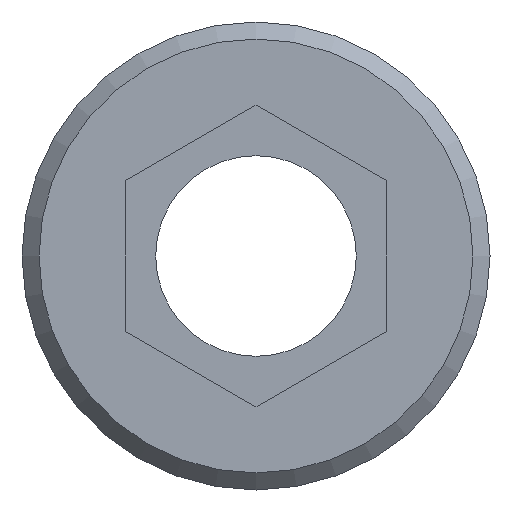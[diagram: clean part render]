
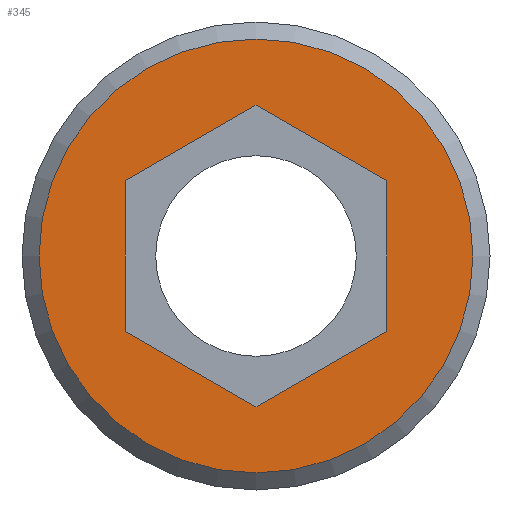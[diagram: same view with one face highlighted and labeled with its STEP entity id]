
A CAD part, front view. The second image highlights one B-rep face of the part: STEP entity #345.
In plain terms, the highlighted planar face has unit normal (0, -1, 0).
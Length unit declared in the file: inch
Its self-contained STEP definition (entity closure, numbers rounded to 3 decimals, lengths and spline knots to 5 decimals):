
#19=FACE_BOUND('',#87,.T.);
#39=CIRCLE('',#390,0.48);
#65=FACE_OUTER_BOUND('',#86,.T.);
#86=EDGE_LOOP('',(#285));
#87=EDGE_LOOP('',(#286,#287,#288,#289,#290,#291));
#97=LINE('',#528,#121);
#100=LINE('',#534,#124);
#103=LINE('',#540,#127);
#106=LINE('',#546,#130);
#109=LINE('',#552,#133);
#112=LINE('',#556,#136);
#121=VECTOR('',#414,0.3937);
#124=VECTOR('',#419,0.3937);
#127=VECTOR('',#424,0.3937);
#130=VECTOR('',#429,0.3937);
#133=VECTOR('',#434,0.3937);
#136=VECTOR('',#439,0.3937);
#145=VERTEX_POINT('',#525);
#146=VERTEX_POINT('',#527);
#148=VERTEX_POINT('',#533);
#150=VERTEX_POINT('',#539);
#152=VERTEX_POINT('',#545);
#154=VERTEX_POINT('',#551);
#166=VERTEX_POINT('',#588);
#179=EDGE_CURVE('',#146,#145,#97,.T.);
#182=EDGE_CURVE('',#148,#146,#100,.T.);
#185=EDGE_CURVE('',#150,#148,#103,.T.);
#188=EDGE_CURVE('',#152,#150,#106,.T.);
#191=EDGE_CURVE('',#154,#152,#109,.T.);
#194=EDGE_CURVE('',#145,#154,#112,.T.);
#209=EDGE_CURVE('',#166,#166,#39,.T.);
#285=ORIENTED_EDGE('',*,*,#209,.F.);
#286=ORIENTED_EDGE('',*,*,#179,.T.);
#287=ORIENTED_EDGE('',*,*,#194,.T.);
#288=ORIENTED_EDGE('',*,*,#191,.T.);
#289=ORIENTED_EDGE('',*,*,#188,.T.);
#290=ORIENTED_EDGE('',*,*,#185,.T.);
#291=ORIENTED_EDGE('',*,*,#182,.T.);
#329=PLANE('',#396);
#345=ADVANCED_FACE('',(#65,#19),#329,.T.);
#390=AXIS2_PLACEMENT_3D('',#589,#479,#480);
#396=AXIS2_PLACEMENT_3D('',#601,#493,#494);
#414=DIRECTION('',(-0.866,0.,-0.5));
#419=DIRECTION('',(0.,0.,-1.));
#424=DIRECTION('',(0.866,0.,-0.5));
#429=DIRECTION('',(0.866,0.,0.5));
#434=DIRECTION('',(0.,0.,1.));
#439=DIRECTION('',(-0.866,0.,0.5));
#479=DIRECTION('center_axis',(0.,1.,0.));
#480=DIRECTION('ref_axis',(0.,0.,1.));
#493=DIRECTION('center_axis',(0.,-1.,0.));
#494=DIRECTION('ref_axis',(0.,0.,-1.));
#525=CARTESIAN_POINT('',(0.,0.,-0.33382));
#527=CARTESIAN_POINT('',(0.2891,0.,-0.16691));
#528=CARTESIAN_POINT('',(0.15599,0.,-0.24376));
#533=CARTESIAN_POINT('',(0.2891,0.,0.16691));
#534=CARTESIAN_POINT('',(0.2891,0.,-0.05704));
#539=CARTESIAN_POINT('',(0.,0.,0.33382));
#540=CARTESIAN_POINT('',(0.13311,0.,0.25697));
#545=CARTESIAN_POINT('',(-0.2891,0.,0.16691));
#546=CARTESIAN_POINT('',(-0.27766,0.,0.17351));
#551=CARTESIAN_POINT('',(-0.2891,0.,-0.16691));
#552=CARTESIAN_POINT('',(-0.2891,0.,-0.22396));
#556=CARTESIAN_POINT('',(-0.01144,0.,-0.32722));
#588=CARTESIAN_POINT('',(0.,0.,-0.48));
#589=CARTESIAN_POINT('Origin',(0.,0.,0.));
#601=CARTESIAN_POINT('Origin',(0.,0.,-0.281));
